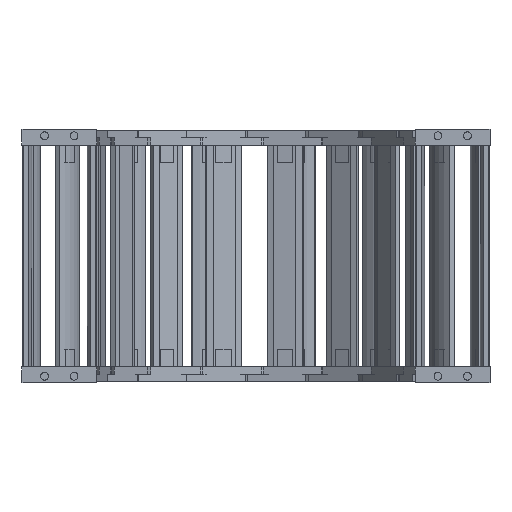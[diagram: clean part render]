
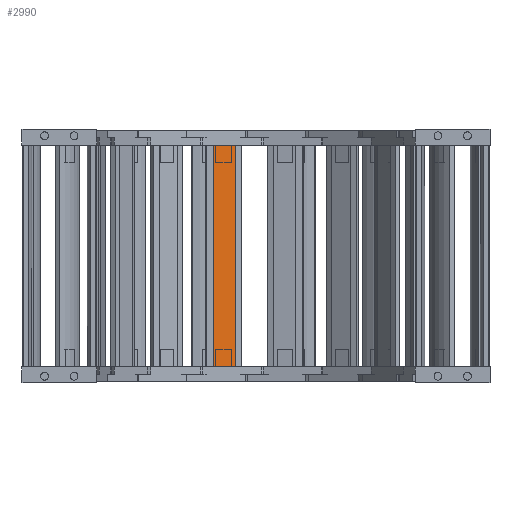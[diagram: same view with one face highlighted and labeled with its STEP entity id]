
A CAD part, left-side view. The second image highlights one B-rep face of the part: STEP entity #2990.
In plain terms, the highlighted planar face has unit normal (-0.979, -0.205, 0) as drawn and (0, -1, 0) by its records, which use the part's own axes.
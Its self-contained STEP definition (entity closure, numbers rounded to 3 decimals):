
#2823=DIRECTION('',(0.,0.,-1.));
#2824=VECTOR('',#2823,225.5);
#2825=CARTESIAN_POINT('',(-11.5,-72.,37.5));
#2826=LINE('',#2825,#2824);
#2852=DIRECTION('',(1.,0.,0.));
#2853=VECTOR('',#2852,23.);
#2854=CARTESIAN_POINT('',(-11.5,-72.,37.5));
#2855=LINE('',#2854,#2853);
#2909=DIRECTION('',(-1.,0.,0.));
#2910=VECTOR('',#2909,23.);
#2911=CARTESIAN_POINT('',(11.5,-72.,-188.));
#2912=LINE('',#2911,#2910);
#2937=DIRECTION('',(0.,0.,-1.));
#2938=VECTOR('',#2937,225.5);
#2939=CARTESIAN_POINT('',(11.5,-72.,37.5));
#2940=LINE('',#2939,#2938);
#2957=CARTESIAN_POINT('',(11.5,-72.,-188.));
#2958=VERTEX_POINT('',#2957);
#2959=CARTESIAN_POINT('',(-11.5,-72.,-188.));
#2960=VERTEX_POINT('',#2959);
#2969=CARTESIAN_POINT('',(11.5,-72.,37.5));
#2970=VERTEX_POINT('',#2969);
#2973=CARTESIAN_POINT('',(-11.5,-72.,37.5));
#2974=VERTEX_POINT('',#2973);
#2975=CARTESIAN_POINT('',(15.5,-72.,-188.));
#2976=DIRECTION('',(0.,1.,0.));
#2977=DIRECTION('',(-1.,0.,0.));
#2978=AXIS2_PLACEMENT_3D('',#2975,#2976,#2977);
#2979=PLANE('',#2978);
#2981=ORIENTED_EDGE('',*,*,#2980,.F.);
#2983=ORIENTED_EDGE('',*,*,#2982,.T.);
#2985=ORIENTED_EDGE('',*,*,#2984,.T.);
#2987=ORIENTED_EDGE('',*,*,#2986,.T.);
#2988=EDGE_LOOP('',(#2981,#2983,#2985,#2987));
#2989=FACE_OUTER_BOUND('',#2988,.F.);
#2990=ADVANCED_FACE('',(#2989),#2979,.F.);
#2980=EDGE_CURVE('',#2974,#2960,#2826,.T.);
#2982=EDGE_CURVE('',#2974,#2970,#2855,.T.);
#2984=EDGE_CURVE('',#2970,#2958,#2940,.T.);
#2986=EDGE_CURVE('',#2958,#2960,#2912,.T.);
